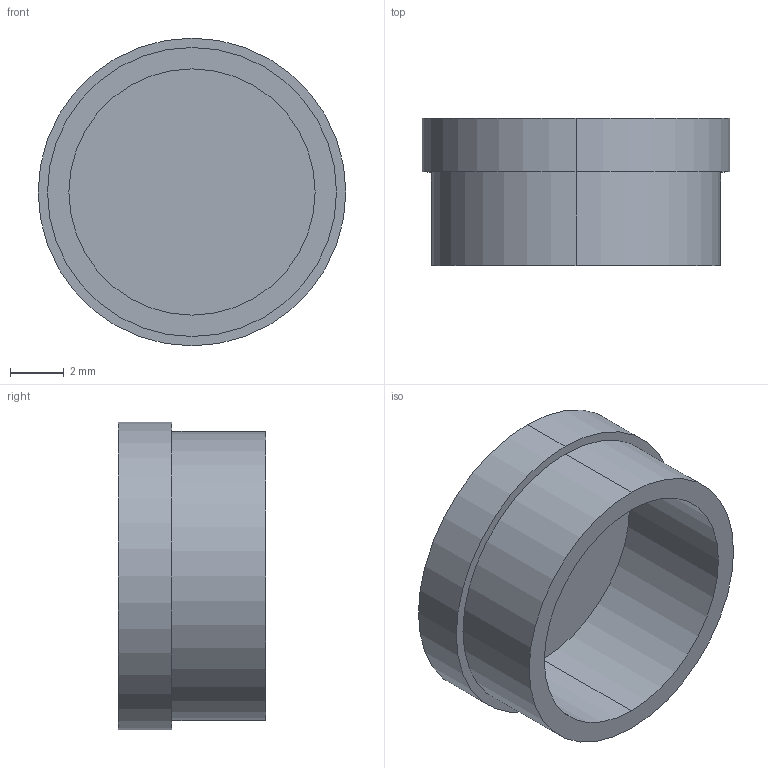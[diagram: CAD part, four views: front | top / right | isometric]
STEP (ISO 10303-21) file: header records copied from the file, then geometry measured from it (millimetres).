
FILE_DESCRIPTION (( 'STEP AP203' ), '1' );
FILE_NAME ('ZF_STEP_VF_PC13xx.STEP', '2024-07-12T14:27:59', ( '' ), ( '' ), 'SwSTEP 2.0', 'SolidWorks 2023', '' );
FILE_SCHEMA (( 'CONFIG_CONTROL_DESIGN' ));
Length unit declared in the file: millimetre
Products named in the file (1): ZF_STEP_VF_PC13xx
Bounding box: 11.5 x 5.5 x 11.5 mm (x, y, z)
Volume: 215.9 mm3; surface area: 534.6 mm2
Topology: 1 solids, 1 shells, 10 faces, 18 edges, 12 vertices
Faces by surface type: cylinder 6, plane 4
Entity records: 331 total; most frequent: DIRECTION 52, CARTESIAN_POINT 41, ORIENTED_EDGE 36, AXIS2_PLACEMENT_3D 23, EDGE_CURVE 18, EDGE_LOOP 12, VERTEX_POINT 12, CIRCLE 12
